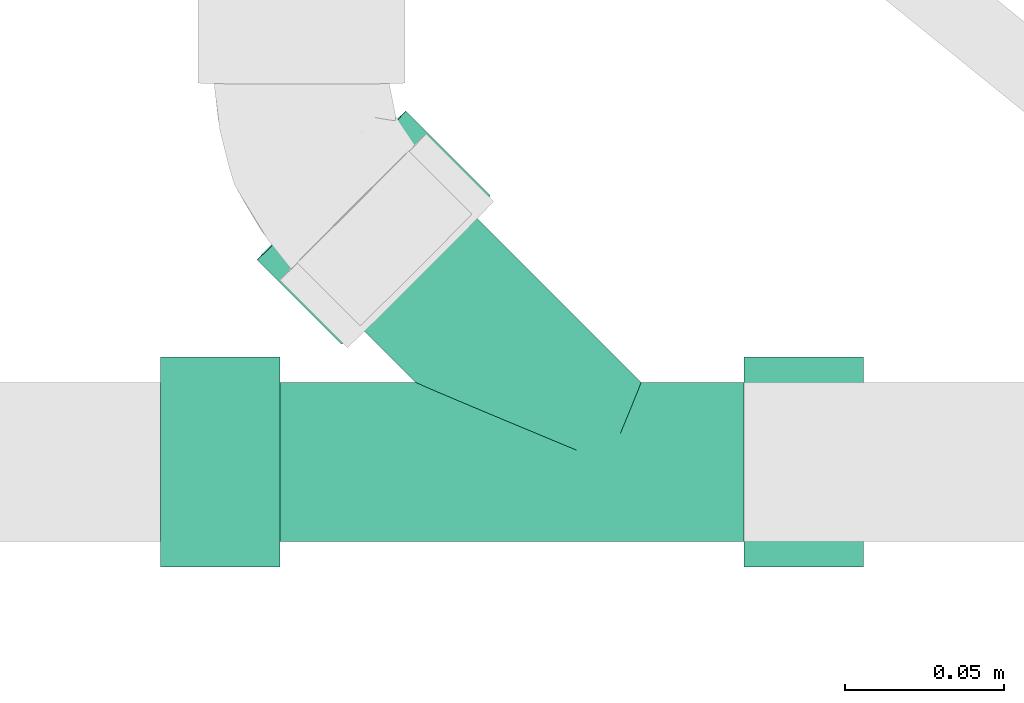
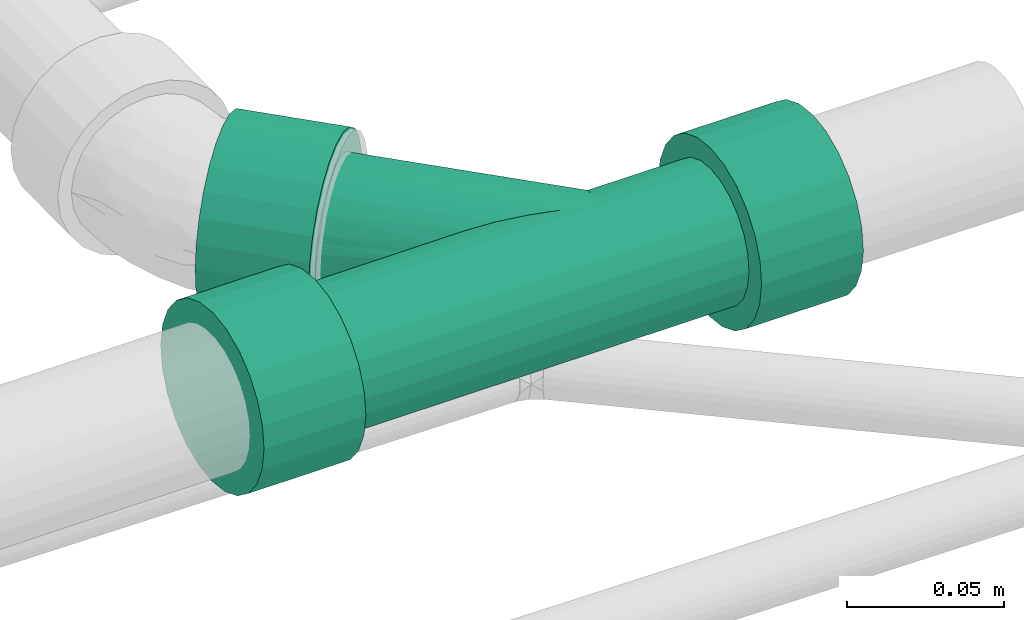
# One storey, part 27 of 35: 1 flow fitting.
"""IFC2X3 building model written with IfcOpenShell, lengths in millimetres."""

from ifc_helpers import new_model, entity, si_unit, converted_unit, derived_unit, direction, frame, origin_with_axes, place, context, subcontext, project, spatial, open_shell, surface_model, source, transform, mapped, type_object, element, save


model = new_model("IFC2X3")

# Units and contexts
model_context = context("Model", 3, precision=0.01, world=frame((0.0, 4.29681676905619e-09, 0.0)), true_north=direction((4.01073788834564e-13, 1.0)))
plan_context = context("Plan", 3, precision=0.01, world=frame((0.0, 4.29681676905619e-09, 0.0)), true_north=direction((4.01073788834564e-13, 1.0)))
body_context = subcontext(model_context, "Body", "Model", "MODEL_VIEW")
ifc_project = project(units=[converted_unit("PLANEANGLEUNIT", "DEGREE", entity("IfcPositiveLengthMeasure", 0.0174532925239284), si_unit("PLANEANGLEUNIT", "RADIAN"), dimensions=[0, 0, 0, 0, 0, 0, 0]), si_unit("AREAUNIT", "SQUARE_METRE"), si_unit("LENGTHUNIT", "METRE", prefix="MILLI"), si_unit("MASSUNIT", "GRAM", prefix="KILO"), si_unit("POWERUNIT", "WATT"), si_unit("PRESSUREUNIT", "PASCAL"), si_unit("FORCEUNIT", "NEWTON", prefix="KILO"), si_unit("ELECTRICVOLTAGEUNIT", "VOLT"), si_unit("ELECTRICCURRENTUNIT", "AMPERE"), si_unit("THERMODYNAMICTEMPERATUREUNIT", "DEGREE_CELSIUS"), si_unit("TIMEUNIT", "SECOND"), si_unit("VOLUMEUNIT", "CUBIC_METRE"), derived_unit("LINEARVELOCITYUNIT", [(si_unit("LENGTHUNIT", "METRE"), 1), (si_unit("TIMEUNIT", "SECOND"), -1)]), derived_unit("VOLUMETRICFLOWRATEUNIT", [(si_unit("VOLUMEUNIT", "CUBIC_METRE"), 1), (si_unit("TIMEUNIT", "SECOND"), -1)]), derived_unit("THERMALTRANSMITTANCEUNIT", [(si_unit("POWERUNIT", "WATT"), 1), (si_unit("THERMODYNAMICTEMPERATUREUNIT", "KELVIN"), -1), (si_unit("AREAUNIT", "SQUARE_METRE"), -1)]), derived_unit("SOUNDPRESSUREUNIT", [(si_unit("PRESSUREUNIT", "PASCAL"), 1)])], contexts=[model_context, plan_context])

# Site, building, storey
site_placement = place(None, frame((0.0, -4.29681676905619e-09, 0.0), z_axis=(0.0, 0.0, 1.0), x_axis=(1.0, 0.0, 0.0)))
site = spatial("IfcSite", under=ifc_project, at=site_placement, Name="ENGM", CompositionType="ELEMENT")
building_placement = place(site_placement, frame((0.0, 4.29681676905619e-09, 0.0), z_axis=(0.0, 0.0, 1.0), x_axis=(1.0, 0.0, 0.0)))
building = spatial("IfcBuilding", under=site, at=building_placement, Name="TH", CompositionType="ELEMENT")
storey_placement = place(building_placement, frame((0.0, 0.0, 210200.0), z_axis=(0.0, 0.0, 1.0), x_axis=(1.0, 0.0, 0.0)))
storey = spatial("IfcBuildingStorey", under=building, at=storey_placement, Name="Nivå F - 0,7 m", CompositionType="ELEMENT", Elevation=210200.0)

# Flow fitting
pipe_fitting_type = type_object("IfcPipeFittingType", Name="magi_sewer_tee_wye_NOR", PredefinedType="JUNCTION")
shared_shape = source(origin_with_axes(), body_context, "Body", "SurfaceModel", [
    surface_model("IfcShellBasedSurfaceModel", [(80.17852, 16.5, -28.57884), (80.17852, -28.57884, -16.5), (80.17852, 8.54103, -31.87555), (80.17852, 33.0, 0.0), (80.17852, 23.33452, -23.33452), (80.17852, 31.87555, -8.54103), (80.17852, 28.57884, -16.5), (80.17852, 0.0, -33.0), (80.17852, -16.5, -28.57884), (80.17852, -8.54103, -31.87555), (80.17852, -23.33452, -23.33452), (80.17852, -33.0, 0.0), (80.17852, -31.87555, -8.54103), (80.17852, 31.87555, 8.54103), (80.17852, 28.57884, 16.5), (80.17852, 23.33452, 23.33452), (80.17852, 16.5, 28.57884), (80.17852, 8.54103, 31.87555), (80.17852, 0.0, 33.0), (80.17852, -31.87555, 8.54103), (80.17852, -23.33452, 23.33452), (80.17852, -28.57884, 16.5), (80.17852, -8.54103, 31.87555), (80.17852, -16.5, 28.57884), (42.67851, 0.0, 33.0), (42.67851, 8.54103, 31.87555), (42.67851, 16.5, 28.57884), (42.67851, 23.33452, 23.33452), (42.67851, 28.57884, 16.5), (42.67851, 31.87555, 8.54103), (42.67851, -31.87555, 8.54103), (42.67851, -8.54103, 31.87555), (42.67851, -23.33452, 23.33452), (42.67851, -16.5, 28.57884), (42.67851, -28.57884, 16.5), (42.67851, -33.0, 0.0), (42.67851, 33.0, 0.0), (42.67851, 23.33452, -23.33452), (42.67851, 31.87555, -8.54103), (42.67851, 28.57884, -16.5), (42.67851, 16.5, -28.57884), (42.67851, 8.54103, -31.87555), (42.67851, -28.57884, -16.5), (42.67851, -16.5, -28.57884), (42.67851, -23.33452, -23.33452), (42.67851, -31.87555, -8.54103), (42.67851, 0.0, -33.0), (42.67851, -8.54103, -31.87555), (-48.68176, -72.02204, -28.57884), (-54.30987, -66.39447, -31.87555), (-60.34958, -60.35534, -33.0), (-40.14032, -80.56266, -16.5), (-37.80908, -82.89368, -8.54103), (-43.84879, -76.85455, -23.33452), (-82.89007, -37.817, -8.54103), (-72.01739, -48.68863, -28.57884), (-76.85036, -43.85613, -23.33452), (-66.38928, -54.31621, -31.87555), (-80.55883, -40.14801, -16.5), (-83.68522, -37.02193, 0.0), (-80.55883, -40.14801, 16.5), (-37.80908, -82.89368, 8.54103), (-40.14032, -80.56266, 16.5), (-43.84879, -76.85455, 23.33452), (-48.68176, -72.02204, 28.57884), (-72.01739, -48.68863, 28.57884), (-60.34958, -60.35534, 33.0), (-54.30987, -66.39447, 31.87555), (-76.85036, -43.85613, 23.33452), (-82.89007, -37.817, 8.54103), (-66.38928, -54.31621, 31.87555), (-37.01394, -83.68875, 0.0), (-86.86481, -86.87311, -33.0), (-80.82511, -92.91224, -31.87555), (-75.197, -98.53982, -28.57884), (-92.90452, -80.83397, -31.87555), (-107.07407, -66.66578, 16.5), (-110.20045, -63.5397, 0.0), (-70.36403, -103.37232, -23.33452), (-66.65556, -107.08044, -16.5), (-103.3656, -70.3739, -23.33452), (-98.53263, -75.20641, -28.57884), (-107.07407, -66.66578, -16.5), (-109.40531, -64.33477, -8.54103), (-64.32432, -109.41145, -8.54103), (-64.32432, -109.41145, 8.54103), (-66.65556, -107.08044, 16.5), (-92.90452, -80.83397, 31.87555), (-75.197, -98.53982, 28.57884), (-70.36403, -103.37232, 23.33452), (-80.82511, -92.91224, 31.87555), (-98.53263, -75.20641, 28.57884), (-103.3656, -70.3739, 23.33452), (-109.40531, -64.33477, 8.54103), (-86.86481, -86.87311, 33.0), (-63.52918, -110.20652, 0.0), (-140.52809, -16.5, -28.57884), (-140.52809, 28.57884, -16.5), (-140.52809, -8.54103, -31.87555), (-140.52809, -33.0, 0.0), (-140.52809, -23.33452, -23.33452), (-140.52809, -31.87555, -8.54103), (-140.52809, -28.57884, -16.5), (-140.52809, 0.0, -33.0), (-140.52809, 16.5, -28.57884), (-140.52809, 8.54103, -31.87555), (-140.52809, 23.33452, -23.33452), (-140.52809, 33.0, 0.0), (-140.52809, 31.87555, -8.54103), (-140.52809, -31.87555, 8.54103), (-140.52809, -28.57884, 16.5), (-140.52809, -23.33452, 23.33452), (-140.52809, -16.5, 28.57884), (-140.52809, -8.54103, 31.87555), (-140.52809, 0.0, 33.0), (-140.52809, 31.87555, 8.54103), (-140.52809, 23.33452, 23.33452), (-140.52809, 28.57884, 16.5), (-140.52809, 8.54103, 31.87555), (-140.52809, 16.5, 28.57884), (-103.02809, 0.0, 33.0), (-103.02809, -8.54103, 31.87555), (-103.02809, -16.5, 28.57884), (-103.02809, -23.33452, 23.33452), (-103.02809, -28.57884, 16.5), (-103.02809, -31.87555, 8.54103), (-103.02809, 31.87555, 8.54103), (-103.02809, 8.54103, 31.87555), (-103.02809, 23.33452, 23.33452), (-103.02809, 16.5, 28.57884), (-103.02809, 28.57884, 16.5), (-103.02809, 33.0, 0.0), (-103.02809, -33.0, 0.0), (-103.02809, -23.33452, -23.33452), (-103.02809, -31.87555, -8.54103), (-103.02809, -28.57884, -16.5), (-103.02809, -16.5, -28.57884), (-103.02809, -8.54103, -31.87555), (-103.02809, 28.57884, -16.5), (-103.02809, 16.5, -28.57884), (-103.02809, 23.33452, -23.33452), (-103.02809, 31.87555, -8.54103), (-103.02809, 0.0, -33.0), (-103.02809, 8.54103, -31.87555), (42.67851, 6.47048, -24.14815), (42.67851, 12.5, -21.65064), (42.67851, 17.67767, -17.67767), (42.67851, 21.65064, -12.5), (42.67851, 24.14815, -6.47048), (42.67851, -12.5, -21.65064), (42.67851, -25.0, 0.0), (42.67851, -6.47048, -24.14815), (42.67851, 0.0, -25.0), (42.67851, -17.67767, -17.67767), (42.67851, -24.14815, -6.47048), (42.67851, -21.65064, -12.5), (42.67851, 24.14815, 6.47048), (42.67851, 25.0, 0.0), (42.67851, 21.65064, 12.5), (42.67851, 17.67767, 17.67767), (42.67851, 0.0, 25.0), (42.67851, 6.47048, 24.14815), (42.67851, 12.5, 21.65064), (42.67851, -17.67767, 17.67767), (42.67851, -24.14815, 6.47048), (42.67851, -21.65064, 12.5), (42.67851, -6.47048, 24.14815), (42.67851, -12.5, 21.65064), (-103.02809, 24.14815, 6.47048), (-103.02809, 0.0, 25.0), (-103.02809, 6.47048, 24.14815), (-103.02809, 12.5, 21.65064), (-103.02809, 17.67767, 17.67767), (-103.02809, 21.65064, 12.5), (-103.02809, -17.67767, 17.67767), (-103.02809, -6.47048, 24.14815), (-103.02809, -12.5, 21.65064), (-103.02809, -24.14815, 6.47048), (-103.02809, -21.65064, 12.5), (-103.02809, -12.5, -21.65064), (-103.02809, -24.14815, -6.47048), (-103.02809, -25.0, 0.0), (-103.02809, 24.14815, -6.47048), (-103.02809, 6.47048, -24.14815), (-103.02809, 21.65064, -12.5), (-103.02809, 17.67767, -17.67767), (-103.02809, 12.5, -21.65064), (-103.02809, -17.67767, -17.67767), (-103.02809, -21.65064, -12.5), (-103.02809, -6.47048, -24.14815), (-103.02809, 0.0, -25.0), (-103.02809, 25.0, 0.0), (-51.95414, -21.52156, -12.25727), (-103.02809, -22.89939, -9.48524), (-58.18562, -24.1029, -4.65003), (-103.02809, -24.57407, -3.23524), (-60.35126, -25.0, 0.0), (42.67851, -15.08884, -19.66415), (7.17321, -17.31649, -18.03162), (6.38346, -15.41, -19.53549), (10.24816, -24.73957, -2.53829), (42.67851, -24.57407, -3.23524), (-56.01997, -23.2058, -9.30005), (-38.77038, -16.0603, -19.15898), (9.50798, -22.95275, -9.90814), (9.00389, -21.73583, -12.09504), (-47.88832, -19.83733, -15.21448), (-29.26863, -12.12428, -21.86325), (-19.58782, -8.11409, -23.6466), (10.14028, -24.47914, -5.07657), (42.67851, -22.89939, -9.48524), (9.82413, -23.71595, -7.49236), (42.67851, -19.66415, -15.08884), (8.49979, -20.51892, -14.28194), (7.8365, -18.9177, -16.15678), (10.35604, -25.0, 0.0), (5.59371, -13.50351, -21.03937), (3.82885, -9.24303, -23.22857), (-9.8121, -4.06458, -24.66737), (0.0, 0.0, -25.0), (42.67851, -9.48524, -22.89939), (42.67851, -3.23524, -24.57407), (1.94362, -4.692, -24.55575), (-9.8121, -4.06458, 24.66737), (0.0, 0.0, 25.0), (-19.58782, -8.11409, 23.6466), (9.82413, -23.71595, 7.49236), (42.67851, -22.89939, 9.48524), (9.50798, -22.95275, 9.90814), (7.17321, -17.31649, 18.03162), (42.67851, -15.08884, 19.66415), (6.38346, -15.41, 19.53549), (7.8365, -18.9177, 16.15678), (42.67851, -19.66415, 15.08884), (-58.18562, -24.1029, 4.65003), (-103.02809, -24.57407, 3.23524), (1.94362, -4.692, 24.55575), (42.67851, -3.23524, 24.57407), (3.82885, -9.24303, 23.22857), (8.49979, -20.51892, 14.28194), (10.24816, -24.73957, 2.53829), (42.67851, -9.48524, 22.89939), (-38.77038, -16.0603, 19.15898), (-29.26863, -12.12428, 21.86325), (-47.88832, -19.83733, 15.21448), (-56.01997, -23.2058, 9.30005), (-103.02809, -22.89939, 9.48524), (9.00389, -21.73583, 12.09504), (-51.95414, -21.52156, 12.25727), (5.59371, -13.50351, 21.03937), (42.67851, -24.57407, 3.23524), (10.14028, -24.47914, 5.07657), (-55.77404, -64.93044, -24.14815), (-72.85017, -47.85594, -17.67767), (-60.34958, -60.35534, -25.0), (-43.27344, -77.42984, -6.47048), (-51.51032, -69.19375, -21.65064), (-47.84898, -72.85474, -17.67767), (-45.03953, -75.66392, -12.5), (-78.02809, -42.67851, 0.0), (-64.92511, -55.78024, -24.14815), (-69.18883, -51.51693, -21.65064), (-75.65962, -45.04676, -12.5), (-77.42571, -43.28084, -6.47048), (-64.92511, -55.78024, 24.14815), (-43.27344, -77.42984, 6.47048), (-47.84898, -72.85474, 17.67767), (-45.03953, -75.66392, 12.5), (-60.34958, -60.35534, 25.0), (-51.51032, -69.19375, 21.65064), (-55.77404, -64.93044, 24.14815), (-75.65962, -45.04676, 12.5), (-69.18883, -51.51693, 21.65064), (-72.85017, -47.85594, 17.67767), (-77.42571, -43.28084, 6.47048), (-42.67106, -78.03216, 0.0), (-77.7269, -42.97968, 3.23524), (-76.54267, -44.1638, 9.48524), (-77.7269, -42.97968, -3.23524), (-76.54267, -44.1638, -9.48524)], [open_shell([[[0, 1, 2]], [[3, 0, 4]], [[5, 3, 4]], [[5, 4, 6]], [[1, 0, 3]], [[7, 8, 9]], [[8, 7, 1]], [[8, 1, 10]], [[7, 2, 1]], [[1, 11, 12]], [[1, 3, 13]], [[13, 14, 15]], [[13, 15, 16]], [[16, 17, 18]], [[16, 18, 13]], [[13, 18, 19]], [[19, 20, 21]], [[11, 1, 19]], [[20, 22, 23]], [[22, 20, 19]], [[18, 22, 19]], [[19, 1, 13]], [[24, 25, 26]], [[24, 26, 27]], [[27, 28, 29]], [[24, 27, 30]], [[30, 27, 29]], [[31, 32, 33]], [[32, 31, 30]], [[32, 30, 34]], [[31, 24, 30]], [[29, 35, 30]], [[29, 36, 35]], [[37, 36, 38]], [[37, 38, 39]], [[40, 41, 36]], [[40, 36, 37]], [[36, 41, 42]], [[42, 43, 44]], [[45, 35, 42]], [[43, 46, 47]], [[43, 42, 41]], [[46, 43, 41]], [[42, 35, 36]], [[45, 12, 35]], [[42, 1, 45]], [[42, 44, 10]], [[44, 43, 8]], [[45, 1, 12]], [[12, 11, 35]], [[47, 9, 8]], [[9, 47, 46]], [[10, 44, 8]], [[10, 1, 42]], [[43, 47, 8]], [[46, 7, 9]], [[2, 41, 40]], [[37, 0, 40]], [[6, 39, 38]], [[37, 39, 4]], [[5, 38, 36]], [[41, 2, 7]], [[40, 0, 2]], [[37, 4, 0]], [[39, 6, 4]], [[5, 6, 38]], [[36, 3, 5]], [[41, 7, 46]], [[29, 13, 36]], [[28, 14, 29]], [[16, 27, 26]], [[28, 27, 15]], [[17, 26, 25]], [[29, 14, 13]], [[13, 3, 36]], [[17, 24, 18]], [[17, 16, 26]], [[15, 27, 16]], [[15, 14, 28]], [[24, 17, 25]], [[22, 31, 33]], [[32, 23, 33]], [[21, 34, 30]], [[32, 34, 20]], [[19, 30, 35]], [[31, 22, 18]], [[33, 23, 22]], [[32, 20, 23]], [[34, 21, 20]], [[19, 21, 30]], [[35, 11, 19]], [[31, 18, 24]], [[48, 49, 50]], [[51, 48, 50]], [[50, 52, 51]], [[53, 48, 51]], [[54, 52, 50]], [[55, 56, 57]], [[56, 50, 57]], [[58, 54, 56]], [[56, 54, 50]], [[59, 60, 54]], [[61, 52, 54]], [[60, 61, 54]], [[62, 61, 63]], [[64, 63, 65]], [[65, 63, 61]], [[66, 67, 64]], [[68, 65, 60]], [[60, 59, 69]], [[70, 66, 65]], [[61, 60, 65]], [[64, 65, 66]], [[71, 52, 61]], [[72, 73, 74]], [[75, 72, 74]], [[76, 77, 78]], [[74, 78, 77]], [[79, 76, 78]], [[75, 80, 81]], [[80, 75, 77]], [[82, 77, 83]], [[77, 82, 80]], [[75, 74, 77]], [[79, 84, 85]], [[79, 85, 76]], [[86, 76, 85]], [[87, 86, 88]], [[88, 86, 89]], [[90, 87, 88]], [[76, 91, 92]], [[93, 77, 76]], [[76, 87, 91]], [[76, 86, 87]], [[94, 87, 90]], [[85, 84, 95]], [[93, 59, 77]], [[76, 69, 93]], [[92, 91, 68]], [[76, 92, 60]], [[70, 91, 87]], [[76, 60, 69]], [[69, 59, 93]], [[65, 68, 91]], [[70, 87, 66]], [[68, 60, 92]], [[91, 70, 65]], [[87, 94, 66]], [[64, 90, 88]], [[89, 63, 88]], [[61, 86, 85]], [[89, 86, 62]], [[71, 85, 95]], [[90, 67, 94]], [[90, 64, 67]], [[94, 67, 66]], [[88, 63, 64]], [[89, 62, 63]], [[61, 62, 86]], [[85, 71, 61]], [[84, 71, 95]], [[79, 52, 84]], [[53, 78, 74]], [[79, 78, 51]], [[48, 74, 73]], [[79, 51, 52]], [[52, 71, 84]], [[53, 51, 78]], [[53, 74, 48]], [[73, 49, 48]], [[73, 50, 49]], [[73, 72, 50]], [[55, 75, 81]], [[80, 56, 81]], [[54, 82, 83]], [[80, 82, 58]], [[59, 83, 77]], [[75, 57, 72]], [[75, 55, 57]], [[72, 57, 50]], [[81, 56, 55]], [[80, 58, 56]], [[54, 58, 82]], [[83, 59, 54]], [[96, 97, 98]], [[99, 96, 100]], [[101, 99, 100]], [[101, 100, 102]], [[97, 96, 99]], [[103, 104, 105]], [[104, 103, 97]], [[104, 97, 106]], [[103, 98, 97]], [[97, 107, 108]], [[97, 99, 109]], [[109, 110, 111]], [[109, 111, 112]], [[112, 113, 114]], [[112, 114, 109]], [[109, 114, 115]], [[115, 116, 117]], [[107, 97, 115]], [[116, 118, 119]], [[118, 116, 115]], [[114, 118, 115]], [[115, 97, 109]], [[120, 121, 122]], [[120, 122, 123]], [[123, 124, 125]], [[120, 123, 126]], [[126, 123, 125]], [[127, 128, 129]], [[128, 127, 126]], [[128, 126, 130]], [[127, 120, 126]], [[125, 131, 126]], [[125, 132, 131]], [[133, 132, 134]], [[133, 134, 135]], [[136, 137, 132]], [[136, 132, 133]], [[132, 137, 138]], [[138, 139, 140]], [[141, 131, 138]], [[139, 142, 143]], [[139, 138, 137]], [[142, 139, 137]], [[138, 131, 132]], [[141, 108, 131]], [[138, 97, 141]], [[138, 140, 106]], [[140, 139, 104]], [[141, 97, 108]], [[108, 107, 131]], [[143, 105, 104]], [[105, 143, 142]], [[106, 140, 104]], [[106, 97, 138]], [[139, 143, 104]], [[142, 103, 105]], [[98, 137, 136]], [[133, 96, 136]], [[102, 135, 134]], [[133, 135, 100]], [[101, 134, 132]], [[137, 98, 103]], [[136, 96, 98]], [[133, 100, 96]], [[135, 102, 100]], [[101, 102, 134]], [[132, 99, 101]], [[137, 103, 142]], [[125, 109, 132]], [[124, 110, 125]], [[112, 123, 122]], [[124, 123, 111]], [[113, 122, 121]], [[125, 110, 109]], [[109, 99, 132]], [[113, 120, 114]], [[113, 112, 122]], [[111, 123, 112]], [[111, 110, 124]], [[120, 113, 121]], [[118, 127, 129]], [[128, 119, 129]], [[117, 130, 126]], [[128, 130, 116]], [[115, 126, 131]], [[127, 118, 114]], [[129, 119, 118]], [[128, 116, 119]], [[130, 117, 116]], [[115, 117, 126]], [[131, 107, 115]], [[127, 114, 120]], [[144, 145, 146]], [[144, 146, 147]], [[144, 148, 149]], [[148, 144, 147]], [[150, 149, 148]], [[144, 151, 152]], [[144, 149, 151]], [[153, 154, 155]], [[154, 153, 149]], [[149, 150, 154]], [[156, 148, 157]], [[156, 158, 159]], [[156, 159, 160]], [[161, 160, 159]], [[161, 159, 162]], [[156, 160, 163]], [[164, 163, 165]], [[164, 150, 156]], [[163, 166, 167]], [[164, 156, 163]], [[160, 166, 163]], [[156, 150, 148]], [[168, 169, 170]], [[168, 170, 171]], [[172, 173, 168]], [[172, 168, 171]], [[169, 168, 174]], [[175, 174, 176]], [[175, 169, 174]], [[174, 177, 178]], [[177, 174, 179]], [[180, 181, 177]], [[179, 174, 168]], [[168, 182, 179]], [[183, 182, 184]], [[185, 186, 183]], [[185, 183, 184]], [[179, 182, 183]], [[180, 187, 188]], [[187, 180, 179]], [[183, 189, 179]], [[180, 177, 179]], [[190, 189, 183]], [[182, 168, 191]], [[188, 192, 193]], [[194, 195, 180]], [[195, 196, 181]], [[197, 198, 199]], [[150, 200, 201]], [[192, 202, 193]], [[187, 179, 203]], [[155, 204, 205]], [[203, 206, 187]], [[207, 203, 179]], [[180, 202, 194]], [[179, 208, 207]], [[187, 206, 188]], [[209, 154, 201]], [[204, 210, 211]], [[212, 213, 214]], [[201, 200, 209]], [[200, 150, 215]], [[210, 154, 211]], [[196, 195, 194]], [[202, 180, 193]], [[188, 206, 192]], [[216, 197, 199]], [[153, 212, 214]], [[213, 212, 155]], [[198, 197, 153]], [[204, 155, 210]], [[213, 155, 205]], [[154, 209, 211]], [[217, 149, 216]], [[218, 190, 219]], [[208, 189, 218]], [[153, 214, 198]], [[218, 189, 190]], [[217, 151, 220]], [[219, 190, 183]], [[184, 182, 147]], [[145, 186, 185]], [[146, 185, 184]], [[183, 186, 144]], [[148, 182, 191]], [[219, 221, 222]], [[217, 222, 151]], [[216, 149, 197]], [[151, 222, 221]], [[217, 220, 149]], [[219, 144, 152]], [[152, 221, 219]], [[183, 144, 219]], [[145, 144, 186]], [[145, 185, 146]], [[147, 146, 184]], [[148, 147, 182]], [[191, 157, 148]], [[208, 179, 189]], [[172, 158, 173]], [[173, 158, 168]], [[156, 191, 168]], [[159, 172, 171]], [[169, 175, 223]], [[170, 169, 224]], [[223, 175, 225]], [[226, 227, 228]], [[171, 170, 162]], [[229, 230, 231]], [[169, 223, 224]], [[163, 232, 233]], [[156, 168, 158]], [[234, 177, 235]], [[162, 159, 171]], [[158, 172, 159]], [[157, 191, 156]], [[224, 236, 237]], [[238, 166, 236]], [[239, 165, 233]], [[150, 240, 215]], [[224, 160, 161]], [[224, 237, 160]], [[238, 241, 166]], [[161, 162, 170]], [[224, 161, 170]], [[225, 175, 176]], [[176, 174, 242]], [[236, 166, 237]], [[242, 243, 176]], [[244, 242, 174]], [[196, 235, 181]], [[174, 178, 244]], [[176, 243, 225]], [[196, 234, 235]], [[177, 245, 246]], [[245, 177, 234]], [[165, 239, 247]], [[178, 248, 244]], [[230, 249, 231]], [[229, 163, 230]], [[246, 248, 178]], [[249, 230, 167]], [[232, 239, 233]], [[232, 163, 229]], [[248, 246, 245]], [[167, 238, 249]], [[250, 251, 240]], [[227, 226, 164]], [[150, 250, 240]], [[226, 251, 164]], [[228, 227, 165]], [[164, 251, 250]], [[228, 165, 247]], [[238, 167, 241]], [[252, 253, 254]], [[255, 252, 256]], [[257, 258, 255]], [[257, 255, 256]], [[259, 252, 255]], [[260, 253, 261]], [[260, 254, 253]], [[262, 259, 263]], [[259, 262, 253]], [[252, 259, 253]], [[255, 264, 259]], [[255, 265, 266]], [[266, 265, 267]], [[268, 266, 269]], [[264, 255, 266]], [[270, 268, 269]], [[271, 272, 273]], [[274, 259, 271]], [[272, 271, 259]], [[264, 272, 259]], [[268, 264, 266]], [[265, 255, 275]], [[276, 274, 234]], [[259, 276, 196]], [[273, 272, 242]], [[244, 271, 273]], [[277, 271, 248]], [[243, 272, 264]], [[196, 276, 234]], [[245, 277, 248]], [[242, 244, 273]], [[225, 243, 264]], [[268, 224, 223]], [[225, 264, 223]], [[242, 272, 243]], [[271, 244, 248]], [[223, 264, 268]], [[236, 268, 270]], [[269, 238, 270]], [[267, 265, 228]], [[239, 266, 267]], [[249, 269, 266]], [[251, 265, 275]], [[229, 249, 266]], [[238, 236, 270]], [[249, 238, 269]], [[245, 274, 277]], [[215, 251, 275]], [[274, 245, 234]], [[228, 239, 267]], [[251, 228, 265]], [[229, 266, 239]], [[268, 236, 224]], [[215, 275, 209]], [[255, 209, 275]], [[257, 256, 216]], [[204, 255, 258]], [[196, 278, 259]], [[257, 213, 258]], [[217, 256, 252]], [[279, 192, 262]], [[204, 209, 255]], [[213, 204, 258]], [[216, 198, 257]], [[222, 217, 252]], [[216, 256, 217]], [[213, 257, 198]], [[192, 279, 202]], [[252, 254, 222]], [[218, 254, 260]], [[261, 207, 260]], [[279, 263, 202]], [[206, 253, 262]], [[203, 261, 253]], [[278, 196, 194]], [[207, 208, 260]], [[218, 219, 254]], [[208, 218, 260]], [[194, 263, 278]], [[194, 202, 263]], [[206, 203, 253]], [[192, 206, 262]], [[207, 261, 203]], [[254, 219, 222]]])]),
])
flow_fitting_placement = place(storey_placement, frame((898843.71918, 483491.12945, 317.08382), z_axis=(-5.49999882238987e-05, 0.0140859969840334, -0.999900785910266), x_axis=(0.999999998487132, -8.44308983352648e-08, -5.5006634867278e-05)))
element("IfcFlowFitting", 1, at=flow_fitting_placement, inside=storey, type_object=pipe_fitting_type, Name="magi_sewer_tee_wye_NOR", context=body_context, shape_type="MappedRepresentation", body=[
    mapped(shared_shape, transform((0.0, 0.0, 0.0), scale=1.0)),
])

save(model, "model.ifc")
